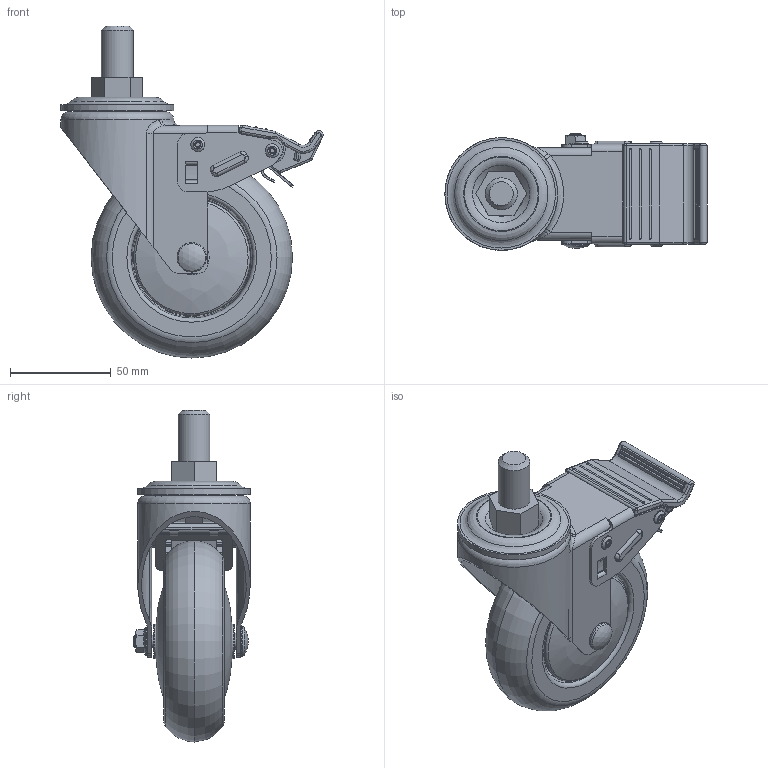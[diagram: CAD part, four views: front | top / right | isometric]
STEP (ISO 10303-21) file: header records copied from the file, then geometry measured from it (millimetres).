
FILE_DESCRIPTION(/* description */ (''),/* implementation_level */ '2;1');
FILE_NAME(/* name */ 'E:\홈피용도면\\X2\C2E0ADDCD648D398C774C9C0C6A9B3C4BA74\X0\\무소음캐스터\20160225-\X2\BB34C18CC74CCE90C2A4D130\X0\\GL-100-BSS.stp',/* time_stamp */ '2016-02-25T21:34:22+09:00',/* author */ ('장용하'),/* organization */ (''),/* preprocessor_version */ 'ST-DEVELOPER v15.6',/* originating_system */ 'Autodesk Inventor 2015',/* authorisation */ '');
FILE_SCHEMA (('AUTOMOTIVE_DESIGN { 1 0 10303 214 3 1 1 }'));
Length unit declared in the file: millimetre
Products named in the file (1): GL-100-BSS
Bounding box: 130.21 x 58 x 164.9 mm (x, y, z)
Volume: 250893.3 mm3; surface area: 95554.6 mm2
Topology: 3 solids, 3 shells, 741 faces, 1903 edges, 1200 vertices
Faces by surface type: cylinder 268, plane 256, torus 101, bspline 47, cone 41, sphere 28
Full cylindrical faces by diameter (mm): 5 x2, 5.2 x5, 6 x2, 6.2 x1, 7 x5, 8 x1, 11 x1, 11.2 x1, 14 x1, 14.6 x1, 15.875 x1, 22 x2, 24.645 x1, 41 x1, 56 x1
Entity records: 24945 total; most frequent: CARTESIAN_POINT 7214, DIRECTION 3858, ORIENTED_EDGE 3508, EDGE_CURVE 1754, AXIS2_PLACEMENT_3D 1539, VERTEX_POINT 1183, EDGE_LOOP 955, LINE 780
